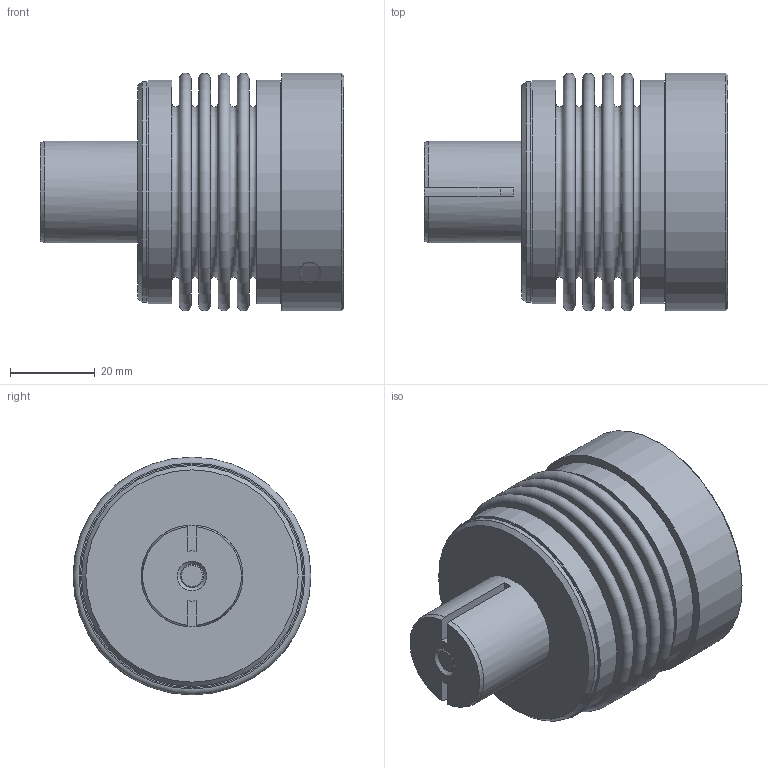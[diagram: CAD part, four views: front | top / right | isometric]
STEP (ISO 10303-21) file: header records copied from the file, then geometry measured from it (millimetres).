
FILE_DESCRIPTION(/* description */ ('Unknown'),/* implementation_level */ '2;1');
FILE_NAME(/* name */ 'KPS 20',/* time_stamp */ '2021-02-22T11:39:11+01:00',/* author */ ('Unknown'),/* organization */ ('Unknown'),/* preprocessor_version */ 'ST-DEVELOPER v16.7',/* originating_system */ 'DEX',/* authorisation */ $);
FILE_SCHEMA (('AUTOMOTIVE_DESIGN {1 0 10303 214 3 1 1}'));
Length unit declared in the file: millimetre
Products named in the file (1): KPS  20
Bounding box: 71.5 x 56 x 56 mm (x, y, z)
Volume: 77769.9 mm3; surface area: 42674.5 mm2
Topology: 1 solids, 2 shells, 122 faces, 256 edges, 165 vertices
Faces by surface type: plane 69, cylinder 20, torus 20, cone 13
Full cylindrical faces by diameter (mm): 5 x1, 6 x2, 6.4 x2, 10 x3, 10.5 x1, 24 x1, 51.6 x1, 52 x1, 52.6 x2
Entity records: 3892 total; most frequent: CARTESIAN_POINT 567, DIRECTION 540, ORIENTED_EDGE 404, AXIS2_PLACEMENT_3D 227, EDGE_CURVE 202, FACE_BOUND 197, EDGE_LOOP 195, VERTEX_POINT 153
